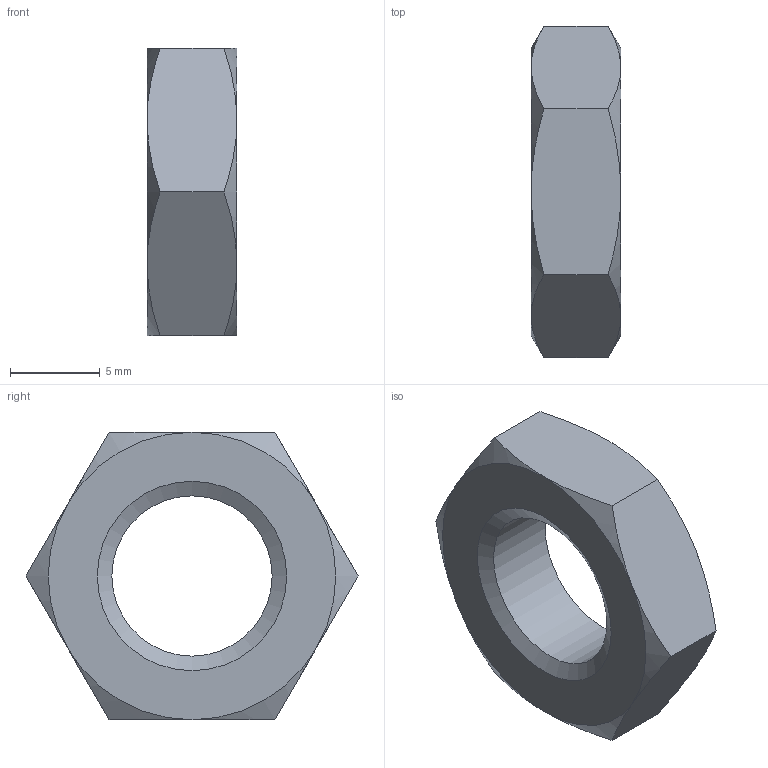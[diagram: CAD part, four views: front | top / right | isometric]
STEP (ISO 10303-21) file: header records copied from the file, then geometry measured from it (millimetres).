
FILE_DESCRIPTION(/* description */ ('6각 너트 및 6각 가는 너트 - 이중 모따기'),/* implementation_level */ '2;1');
FILE_NAME(/* name */ '',/* time_stamp */ '2024-09-02T11:23:51+09:00',/* author */ ('jhkim'),/* organization */ (''),/* preprocessor_version */ 'ST-DEVELOPER v20',/* originating_system */ 'Autodesk Inventor 2025',/* authorisation */ '');
FILE_SCHEMA (('AUTOMOTIVE_DESIGN { 1 0 10303 214 3 1 1 }'));
Length unit declared in the file: millimetre
Products named in the file (1): 육각 너트 M10x1
Bounding box: 5 x 18.48 x 16 mm (x, y, z)
Volume: 776 mm3; surface area: 696.3 mm2
Topology: 1 solids, 1 shells, 23 faces, 50 edges, 29 vertices
Faces by surface type: cone 14, plane 8, cylinder 1
Full cylindrical faces by diameter (mm): 8.917 x1
Entity records: 640 total; most frequent: CARTESIAN_POINT 151, ORIENTED_EDGE 100, DIRECTION 91, EDGE_CURVE 50, AXIS2_PLACEMENT_3D 41, VERTEX_POINT 29, EDGE_LOOP 25, FACE_OUTER_BOUND 23
